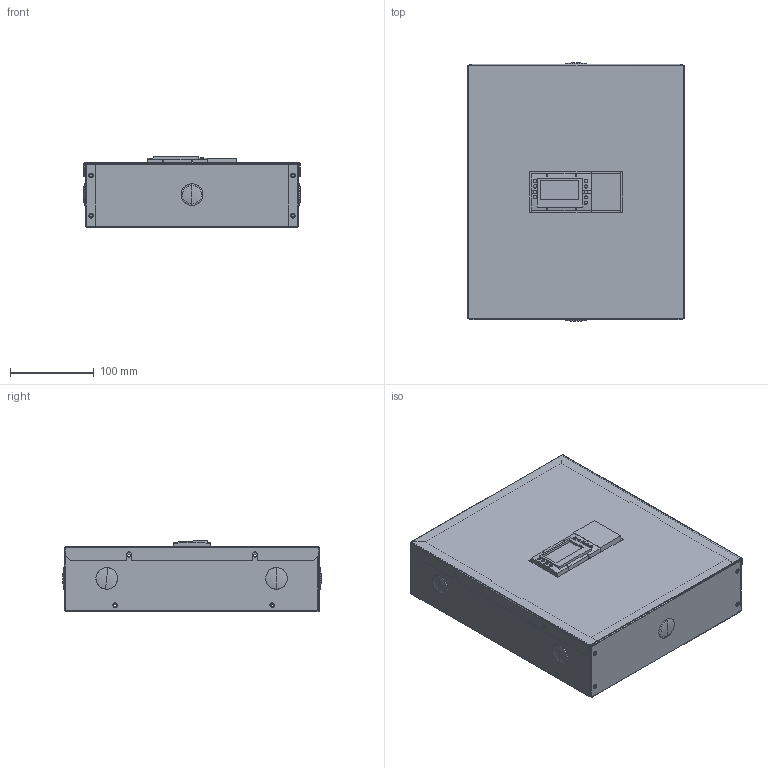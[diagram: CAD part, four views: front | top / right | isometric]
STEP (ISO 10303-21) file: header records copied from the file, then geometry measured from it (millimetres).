
FILE_DESCRIPTION (( 'STEP AP214' ), '1' );
FILE_NAME ('MPC-10.STEP', '2024-10-09T19:21:19', ( '' ), ( '' ), 'SwSTEP 2.0', 'SolidWorks 2022', '' );
FILE_SCHEMA (( 'AUTOMOTIVE_DESIGN' ));
Length unit declared in the file: inch
Products named in the file (8): 80326; SMM16152X; SMM16151X; MPC-10; SMM16149X; SMM16153X; 70971; 03196
Assembly tree (12 placements, depth 2):
  MPC-10
    SMM16149X
    SMM16151X
    SMM16152X
    SMM16153X
    70971
    80326  x6
    03196
Bounding box: 259.59 x 309.25 x 84.99 mm (x, y, z)
Volume: 802077.3 mm3; surface area: 818858.3 mm2
Topology: 25 solids, 25 shells, 2736 faces, 7078 edges, 4652 vertices
Faces by surface type: plane 2259, cylinder 455, bspline 22
Entity records: 111974 total; most frequent: CARTESIAN_POINT 15151, ORIENTED_EDGE 13932, DIRECTION 13123, EDGE_CURVE 6966, VECTOR 6029, LINE 6029, VERTEX_POINT 4587, AXIS2_PLACEMENT_3D 3547
